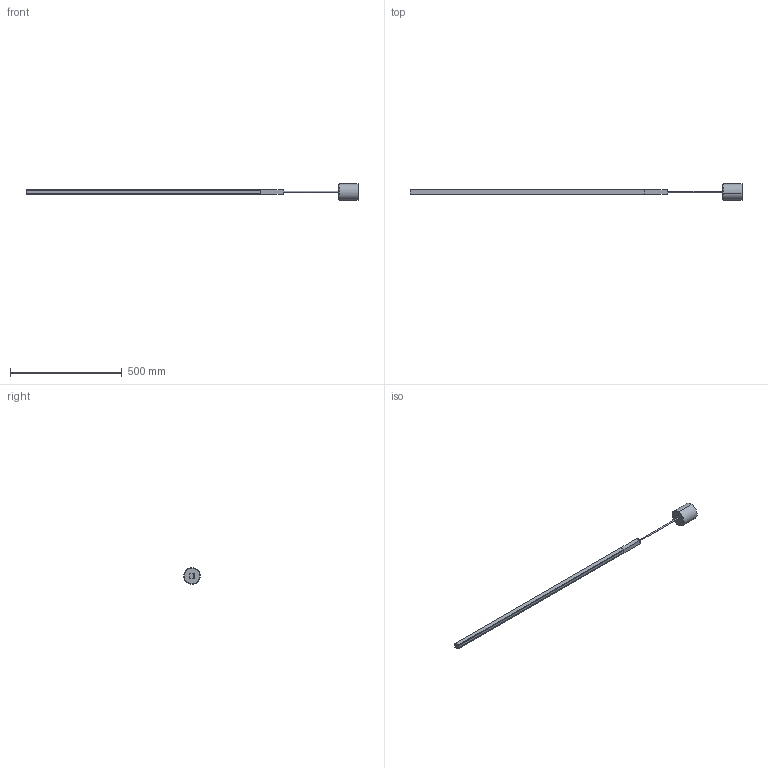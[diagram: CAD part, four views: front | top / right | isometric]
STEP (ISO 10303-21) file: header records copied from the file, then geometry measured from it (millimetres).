
FILE_DESCRIPTION (( 'STEP AP214' ), '1' );
FILE_NAME ('3D_LINESCAPES_V.STEP', '2018-02-28T13:54:58', ( 'Utente' ), ( '' ), 'SwSTEP 2.0', 'SolidWorks 2016', '' );
FILE_SCHEMA (( 'AUTOMOTIVE_DESIGN' ));
Length unit declared in the file: millimetre
Products named in the file (6): 010LIN701400_Rosone verticale-1^3D_LINESCAPES_V; diffusore-1^3D_LINESCAPES_V; cavo 250mm-1^3D_LINESCAPES_V; 052SPI700400_Innesto foro allargato-6^3D_LINESCAPES_V; Group1^3D_LINESCAPES_V; 3D_LINESCAPES_V
Assembly tree (5 placements, depth 2):
  3D_LINESCAPES_V
    Group1^3D_LINESCAPES_V
    052SPI700400_Innesto foro allargato-6^3D_LINESCAPES_V
    cavo 250mm-1^3D_LINESCAPES_V
    diffusore-1^3D_LINESCAPES_V
    010LIN701400_Rosone verticale-1^3D_LINESCAPES_V
Bounding box: 1482.5 x 74.95 x 74.95 mm (x, y, z)
Volume: 842180.8 mm3; surface area: 175898.9 mm2
Topology: 6 solids, 6 shells, 67 faces, 145 edges, 90 vertices
Faces by surface type: plane 53, cylinder 12, torus 2
Entity records: 2209 total; most frequent: CARTESIAN_POINT 334, DIRECTION 299, ORIENTED_EDGE 290, EDGE_CURVE 145, LINE 125, VECTOR 125, VERTEX_POINT 90, AXIS2_PLACEMENT_3D 87
